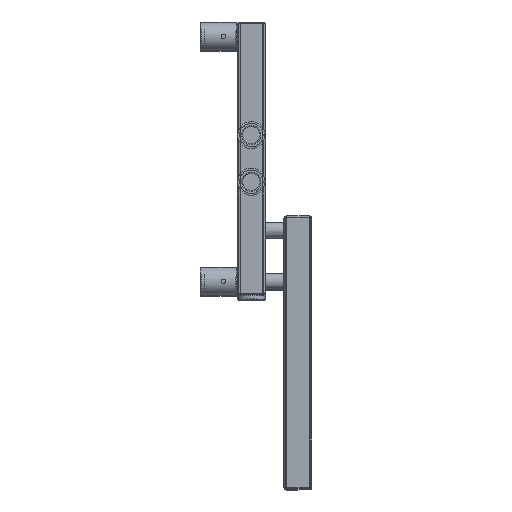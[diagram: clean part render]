
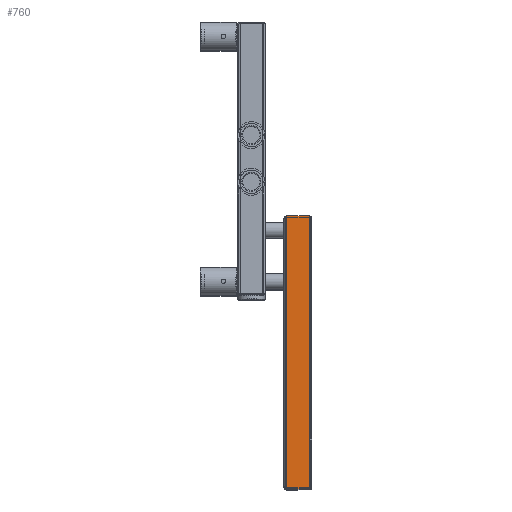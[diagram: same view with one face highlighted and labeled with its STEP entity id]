
A CAD part, top view. The second image highlights one B-rep face of the part: STEP entity #760.
In plain terms, the highlighted planar face has unit normal (0, 0, 1) as drawn and (0, -1, 0) by its records, which use the part's own axes.
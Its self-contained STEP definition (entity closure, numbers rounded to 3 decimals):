
#760 = ADVANCED_FACE( '', ( #1667 ), #1668, .T. );
#1667 = FACE_OUTER_BOUND( '', #2974, .T. );
#1668 = PLANE( '', #2975 );
#2974 = EDGE_LOOP( '', ( #4558, #4559, #4560, #4561 ) );
#2975 = AXIS2_PLACEMENT_3D( '', #4562, #4563, #4564 );
#4558 = ORIENTED_EDGE( '', *, *, #7097, .T. );
#4559 = ORIENTED_EDGE( '', *, *, #6843, .T. );
#4560 = ORIENTED_EDGE( '', *, *, #7098, .F. );
#4561 = ORIENTED_EDGE( '', *, *, #7099, .T. );
#4562 = CARTESIAN_POINT( '', ( 15., -15., 292.5 ) );
#4563 = DIRECTION( '', ( 0., -1., 0. ) );
#4564 = DIRECTION( '', ( 1., 0., 0. ) );
#6843 = EDGE_CURVE( '', #7968, #7966, #7969, .T. );
#7097 = EDGE_CURVE( '', #8397, #7968, #8398, .T. );
#7098 = EDGE_CURVE( '', #8399, #7966, #8400, .T. );
#7099 = EDGE_CURVE( '', #8399, #8397, #8401, .F. );
#7966 = VERTEX_POINT( '', #9582 );
#7968 = VERTEX_POINT( '', #9584 );
#7969 = LINE( '', #9585, #9586 );
#8397 = VERTEX_POINT( '', #10142 );
#8398 = LINE( '', #10143, #10144 );
#8399 = VERTEX_POINT( '', #10145 );
#8400 = LINE( '', #10146, #10147 );
#8401 = LINE( '', #10148, #10149 );
#9582 = CARTESIAN_POINT( '', ( -12., -15., 0. ) );
#9584 = CARTESIAN_POINT( '', ( -12., -15., 292.5 ) );
#9585 = CARTESIAN_POINT( '', ( -12., -15., 292.5 ) );
#9586 = VECTOR( '', #11711, 1000. );
#10142 = CARTESIAN_POINT( '', ( 12., -15., 292.5 ) );
#10143 = CARTESIAN_POINT( '', ( 15., -15., 292.5 ) );
#10144 = VECTOR( '', #12085, 1000. );
#10145 = CARTESIAN_POINT( '', ( 12., -15., 0. ) );
#10146 = CARTESIAN_POINT( '', ( 15., -15., 0. ) );
#10147 = VECTOR( '', #12086, 1000. );
#10148 = CARTESIAN_POINT( '', ( 12., -15., 292.5 ) );
#10149 = VECTOR( '', #12087, 1000. );
#11711 = DIRECTION( '', ( 0., 0., -1. ) );
#12085 = DIRECTION( '', ( -1., 0., 0. ) );
#12086 = DIRECTION( '', ( -1., 0., 0. ) );
#12087 = DIRECTION( '', ( 0., 0., -1. ) );
